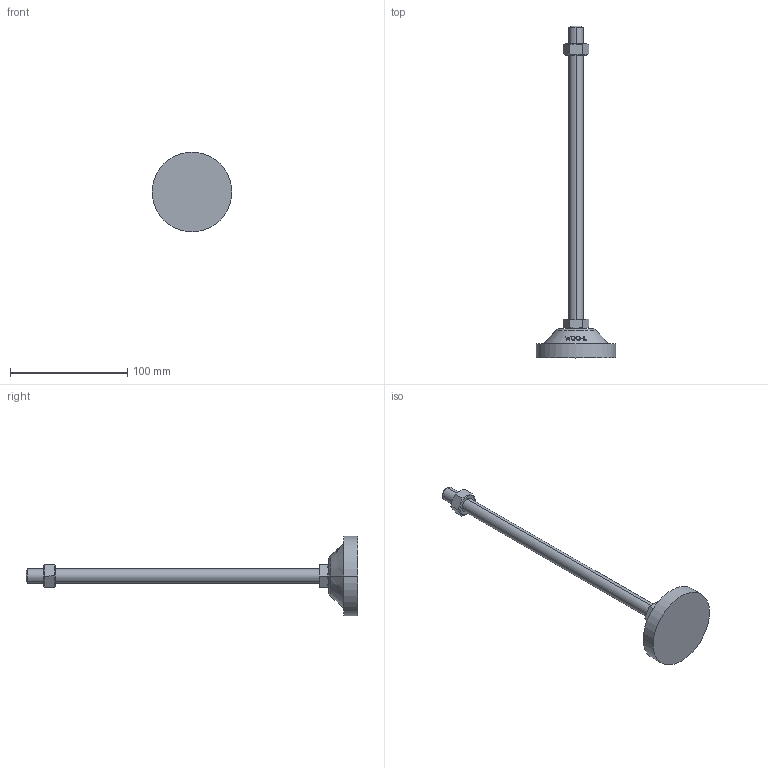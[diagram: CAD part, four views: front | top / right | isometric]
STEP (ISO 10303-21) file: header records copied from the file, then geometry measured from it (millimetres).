
FILE_DESCRIPTION (( 'STEP AP214' ), '1' );
FILE_NAME ('RL68-M12-250.step', '2021-01-06T08:17:09', ( '' ), ( '' ), 'SwSTEP 2.0', 'SolidWorks 2019', '' );
FILE_SCHEMA (( 'AUTOMOTIVE_DESIGN' ));
Length unit declared in the file: millimetre
Products named in the file (1): RL68-M12-250
Bounding box: 68 x 283 x 68 mm (x, y, z)
Volume: 95957 mm3; surface area: 22473.1 mm2
Topology: 3 solids, 3 shells, 93 faces, 217 edges, 140 vertices
Faces by surface type: plane 47, cone 22, bspline 16, cylinder 6, torus 2
Entity records: 4047 total; most frequent: CARTESIAN_POINT 2015, ORIENTED_EDGE 434, DIRECTION 349, EDGE_CURVE 217, VERTEX_POINT 140, AXIS2_PLACEMENT_3D 134, EDGE_LOOP 105, ADVANCED_FACE 93
